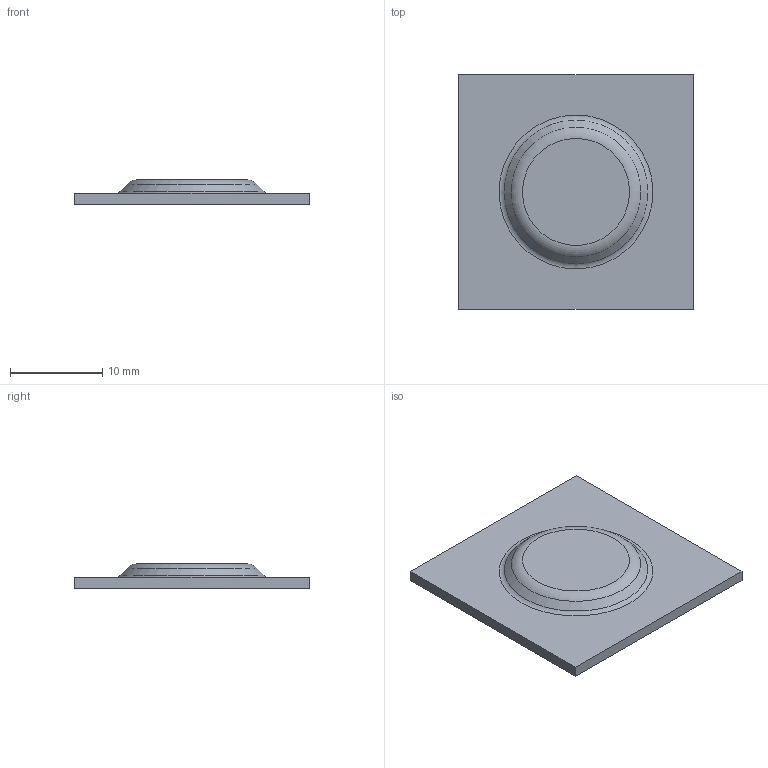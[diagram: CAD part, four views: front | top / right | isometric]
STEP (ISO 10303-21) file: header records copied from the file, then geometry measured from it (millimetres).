
FILE_DESCRIPTION((''),'2;1');
FILE_NAME('C:/Users/ericfrey/Desktop/200-5562-00 REV 09 DIMPLE.STP', '2023-12-14T19:13:00',(''), (''), 'Kubotek Kosmos Version 5.3.13691.13691', 'KeyCreator Pro', '');
FILE_SCHEMA(('CONFIG_CONTROL_DESIGN'));
Length unit declared in the file: inch
Bounding box: 25.4 x 25.4 x 2.7 mm (x, y, z)
Volume: 801.3 mm3; surface area: 1457.4 mm2
Topology: 1 solids, 1 shells, 14 faces, 28 edges, 18 vertices
Faces by surface type: plane 8, torus 4, cone 2
Entity records: 469 total; most frequent: DIRECTION 68, CARTESIAN_POINT 62, ORIENTED_EDGE 56, GENERAL_PROPERTY 35, EDGE_CURVE 28, AXIS2_PLACEMENT_3D 27, VERTEX_POINT 18, EDGE_LOOP 16
